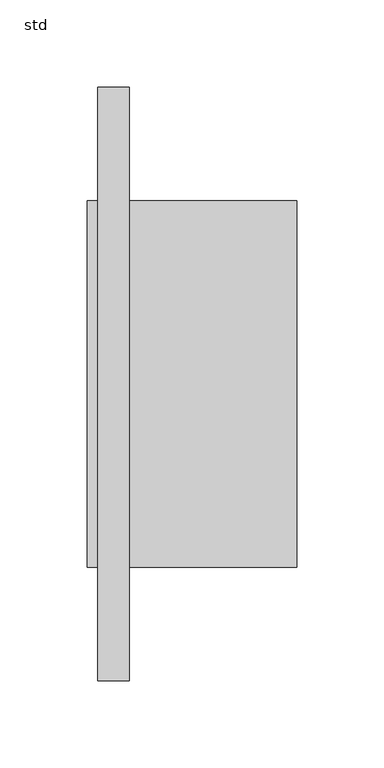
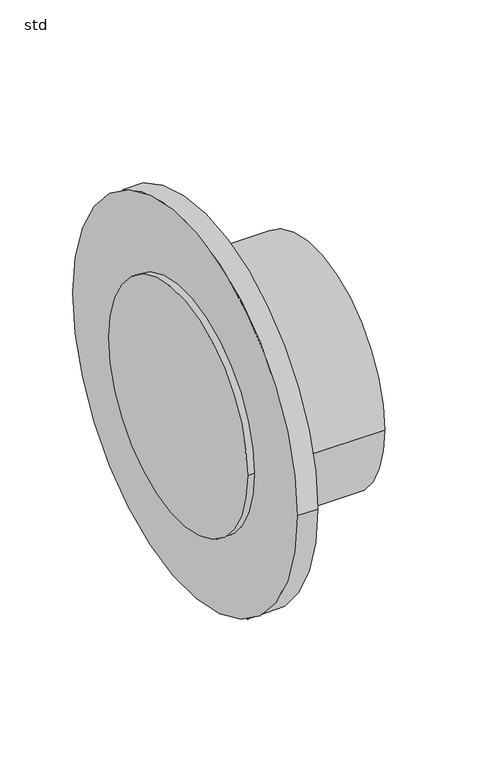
"""IFC4 building model written with IfcOpenShell, lengths in millimetres: pipe fitting geometry, ZZZ_do not use_PIF_ST_UN_flange_ACO : std."""

from ifc_helpers import new_model, si_unit, frame, origin, place, context, project, spatial, circle_curve, source, transform, mapped, element, save
from ifc_brep_helpers import plane_surface, cylinder_surface, advanced_brep


def std_2dac5c2e(model_context):
    return source(origin(), model_context, "Body", "AdvancedBrep", [
        advanced_brep(
        [(120.0, -105.0, 0.0), (120.0, 105.0, 0.0), (0.0, -105.0, 0.0), (0.0, 105.0, 0.0), (24.0, -105.0, 0.0), (24.0, 105.0, 0.0), (6.0, 105.0, 0.0), (6.0, -105.0, 0.0), (24.0, -170.0, 0.0), (24.0, 170.0, 0.0), (6.0, -170.0, 0.0), (6.0, 170.0, 0.0)],
        [
            (0, 1, circle_curve(frame((120.0, 0.0, 0.0), z_axis=(1.0, 0.0, 0.0), x_axis=(0.0, 1.0, 0.0)), 105.0)),
            (1, 0, circle_curve(frame((120.0, 0.0, 0.0), z_axis=(1.0, 0.0, 0.0), x_axis=(0.0, 1.0, 0.0)), 105.0)),
            (2, 3, circle_curve(frame((0.0, 0.0, 0.0), z_axis=(-1.0, 0.0, 0.0), x_axis=(0.0, 1.0, 0.0)), 105.0)),
            (3, 2, circle_curve(frame((0.0, 0.0, 0.0), z_axis=(-1.0, 0.0, 0.0), x_axis=(0.0, 1.0, 0.0)), 105.0)),
            (0, 4),
            (4, 5, circle_curve(frame((24.0, 0.0, 0.0), z_axis=(1.0, 0.0, 0.0), x_axis=(0.0, 1.0, 0.0)), 105.0)),
            (5, 1),
            (3, 6),
            (6, 7, circle_curve(frame((6.0, 0.0, 0.0), z_axis=(-1.0, 0.0, 0.0), x_axis=(0.0, 1.0, 0.0)), 105.0)),
            (7, 2),
            (5, 4, circle_curve(frame((24.0, 0.0, 0.0), z_axis=(1.0, 0.0, 0.0), x_axis=(0.0, 1.0, 0.0)), 105.0)),
            (7, 6, circle_curve(frame((6.0, 0.0, 0.0), z_axis=(-1.0, 0.0, 0.0), x_axis=(0.0, 1.0, 0.0)), 105.0)),
            (8, 9, circle_curve(frame((24.0, 0.0, 0.0), z_axis=(1.0, 0.0, 0.0), x_axis=(0.0, 1.0, 0.0)), 170.0)),
            (9, 8, circle_curve(frame((24.0, 0.0, 0.0), z_axis=(1.0, 0.0, 0.0), x_axis=(0.0, 1.0, 0.0)), 170.0)),
            (10, 11, circle_curve(frame((6.0, 0.0, 0.0), z_axis=(-1.0, 0.0, 0.0), x_axis=(0.0, 1.0, 0.0)), 170.0)),
            (11, 10, circle_curve(frame((6.0, 0.0, 0.0), z_axis=(-1.0, 0.0, 0.0), x_axis=(0.0, 1.0, 0.0)), 170.0)),
            (8, 10),
            (11, 9),
        ],
        [
            plane_surface(frame((120.0, 105.0, 0.0), z_axis=(1.0, 0.0, 0.0), x_axis=(0.0, 0.0, 1.0))),
            plane_surface(frame((0.0, 105.0, 0.0), z_axis=(-1.0, 0.0, 0.0), x_axis=(0.0, 0.0, -1.0))),
            cylinder_surface(frame((0.0, 0.0, 0.0), z_axis=(1.0, 0.0, 0.0), x_axis=(0.0, 1.0, 0.0)), 105.0),
            plane_surface(frame((24.0, 170.0, 0.0), z_axis=(1.0, 0.0, 0.0), x_axis=(0.0, 0.0, 1.0))),
            plane_surface(frame((6.0, 170.0, 0.0), z_axis=(-1.0, 0.0, 0.0), x_axis=(0.0, 0.0, -1.0))),
            cylinder_surface(frame((6.0, 0.0, 0.0), z_axis=(1.0, 0.0, 0.0), x_axis=(0.0, 1.0, 0.0)), 170.0),
        ],
        [
            (0, [[1, 2]]),
            (1, [[3, 4]]),
            (2, [[-1, 5, 6, 7]]),
            (2, [[-4, 8, 9, 10]]),
            (2, [[-2, -7, 11, -5]]),
            (2, [[-3, -10, 12, -8]]),
            (3, [[13, 14], [-6, -11]]),
            (4, [[15, 16], [-9, -12]]),
            (5, [[-13, 17, -16, 18]]),
            (5, [[-14, -18, -15, -17]]),
        ],
    ),
    ])


if __name__ == "__main__":
    model = new_model("IFC4")
    model_context = context("Model", 3, world=origin())
    ifc_project = project(units=[si_unit("LENGTHUNIT", "METRE", prefix="MILLI")], contexts=[model_context])
    site = spatial("IfcSite", under=ifc_project)
    building = spatial("IfcBuilding", under=site)
    placement = place(None, origin())
    std_shape = std_2dac5c2e(model_context)
    element("IfcPipeFitting", 1, ObjectType="ZZZ_do not use_PIF_ST_UN_flange_ACO : std", at=placement, inside=building, context=model_context, shape_type="MappedRepresentation", body=[
        mapped(std_shape, transform((0.0, 0.0, 0.0), x_axis=(1.0, 0.0, 0.0), y_axis=(0.0, 1.0, 0.0), z_axis=(0.0, 0.0, 1.0))),
    ])
    save(model, "model.ifc")
